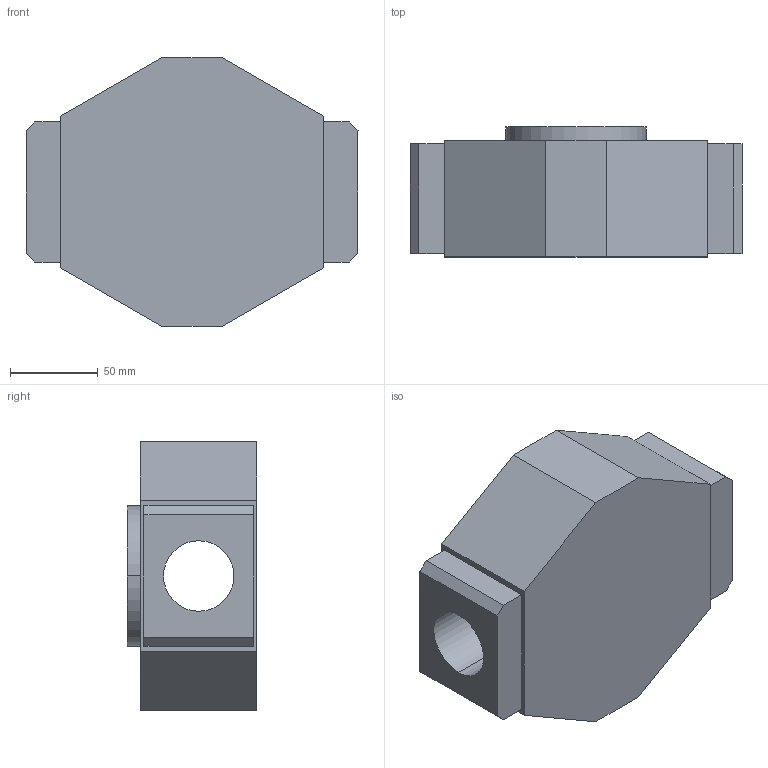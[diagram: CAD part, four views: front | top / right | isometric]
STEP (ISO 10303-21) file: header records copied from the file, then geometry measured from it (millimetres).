
FILE_DESCRIPTION (( 'STEP AP214' ), '1' );
FILE_NAME ('IRB4400_60-195_IRC5_rev02_LINK05_CAD.STEP', '2016-11-03T06:48:50', ( 'ABB' ), ( 'ABB' ), 'SwSTEP 2.0', 'SolidWorks 2014', '' );
FILE_SCHEMA (( 'AUTOMOTIVE_DESIGN' ));
Length unit declared in the file: millimetre
Products named in the file (1): IRB4400_60-195_IRC5_rev02_LINK05_CAD
Bounding box: 189.5 x 74.18 x 153.21 mm (x, y, z)
Volume: 1264722.2 mm3; surface area: 106252.9 mm2
Topology: 1 solids, 1 shells, 37 faces, 92 edges, 58 vertices
Faces by surface type: plane 25, cylinder 8, cone 4
Entity records: 1166 total; most frequent: CARTESIAN_POINT 184, DIRECTION 180, ORIENTED_EDGE 176, EDGE_CURVE 88, LINE 72, VECTOR 72, VERTEX_POINT 58, AXIS2_PLACEMENT_3D 54
